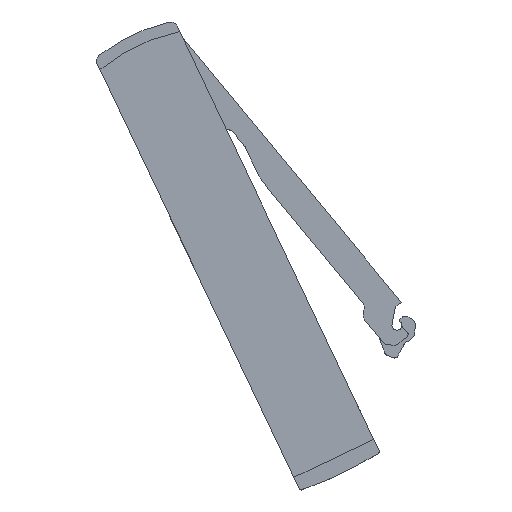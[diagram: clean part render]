
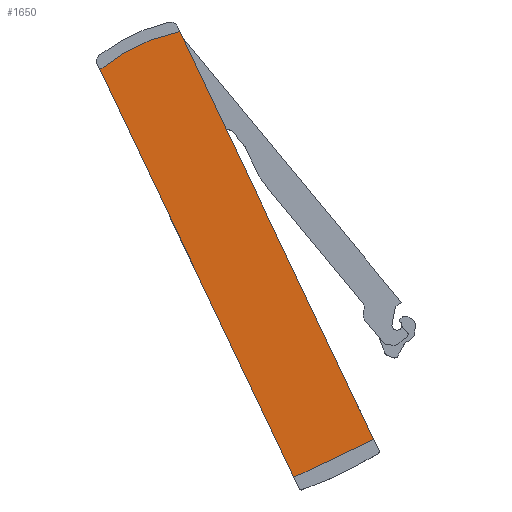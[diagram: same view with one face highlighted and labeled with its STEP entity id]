
A CAD part, top view. The second image highlights one B-rep face of the part: STEP entity #1650.
In plain terms, the highlighted planar face has unit normal (0, 0, 1).
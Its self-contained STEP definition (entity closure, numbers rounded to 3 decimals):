
#481 = CIRCLE ( 'NONE', #2121, 65.7 ) ;
#620 = VECTOR ( 'NONE', #2190, 1000. ) ;
#724 = LINE ( 'NONE', #2219, #620 ) ;
#999 = VECTOR ( 'NONE', #2392, 1000. ) ;
#1042 = LINE ( 'NONE', #2477, #999 ) ;
#1143 = CARTESIAN_POINT ( 'NONE',  ( 42.483, 85.405, 44.75 ) ) ;
#1146 = DIRECTION ( 'NONE',  ( 0., 0., -1. ) ) ;
#1147 = DIRECTION ( 'NONE',  ( 1., 0., 0. ) ) ;
#1159 = VECTOR ( 'NONE', #2207, 1000. ) ;
#1341 = ORIENTED_EDGE ( 'NONE', *, *, #2167, .T. ) ;
#1468 = EDGE_CURVE ( 'NONE', #1579, #1561, #481, .T. ) ;
#1493 = LINE ( 'NONE', #3447, #1159 ) ;
#1494 = CARTESIAN_POINT ( 'NONE',  ( 102.478, -2.332, 44.75 ) ) ;
#1548 = VERTEX_POINT ( 'NONE', #1494 ) ;
#1561 = VERTEX_POINT ( 'NONE', #1655 ) ;
#1579 = VERTEX_POINT ( 'NONE', #1794 ) ;
#1650 = ADVANCED_FACE ( 'NONE', ( #2944 ), #2198, .T. ) ;
#1655 = CARTESIAN_POINT ( 'NONE',  ( 30.072, 149.922, 44.75 ) ) ;
#1794 = CARTESIAN_POINT ( 'NONE',  ( 0.27, 135.75, 44.75 ) ) ;
#1813 = VERTEX_POINT ( 'NONE', #3043 ) ;
#1946 = EDGE_LOOP ( 'NONE', ( #2989, #1341, #2796, #3411 ) ) ;
#2089 = EDGE_CURVE ( 'NONE', #1561, #1548, #1493, .T. ) ;
#2121 = AXIS2_PLACEMENT_3D ( 'NONE', #1143, #1146, #1147 ) ;
#2154 = DIRECTION ( 'NONE',  ( 0., 0., 1. ) ) ;
#2167 = EDGE_CURVE ( 'NONE', #1813, #1548, #1042, .T. ) ;
#2188 = CARTESIAN_POINT ( 'NONE',  ( 50.643, 68.247, 44.75 ) ) ;
#2190 = DIRECTION ( 'NONE',  ( -0.429, 0.903, 0. ) ) ;
#2198 = PLANE ( 'NONE',  #2724 ) ;
#2202 = DIRECTION ( 'NONE',  ( -0.429, 0.903, 0. ) ) ;
#2207 = DIRECTION ( 'NONE',  ( 0.429, -0.903, 0. ) ) ;
#2219 = CARTESIAN_POINT ( 'NONE',  ( 72.676, -16.505, 44.75 ) ) ;
#2392 = DIRECTION ( 'NONE',  ( 0.903, 0.429, 0. ) ) ;
#2477 = CARTESIAN_POINT ( 'NONE',  ( 87.577, -9.418, 44.75 ) ) ;
#2724 = AXIS2_PLACEMENT_3D ( 'NONE', #2188, #2154, #2202 ) ;
#2796 = ORIENTED_EDGE ( 'NONE', *, *, #2089, .F. ) ;
#2944 = FACE_OUTER_BOUND ( 'NONE', #1946, .T. ) ;
#2989 = ORIENTED_EDGE ( 'NONE', *, *, #3277, .F. ) ;
#3043 = CARTESIAN_POINT ( 'NONE',  ( 72.676, -16.505, 44.75 ) ) ;
#3277 = EDGE_CURVE ( 'NONE', #1813, #1579, #724, .T. ) ;
#3411 = ORIENTED_EDGE ( 'NONE', *, *, #1468, .F. ) ;
#3447 = CARTESIAN_POINT ( 'NONE',  ( 30.072, 149.922, 44.75 ) ) ;
